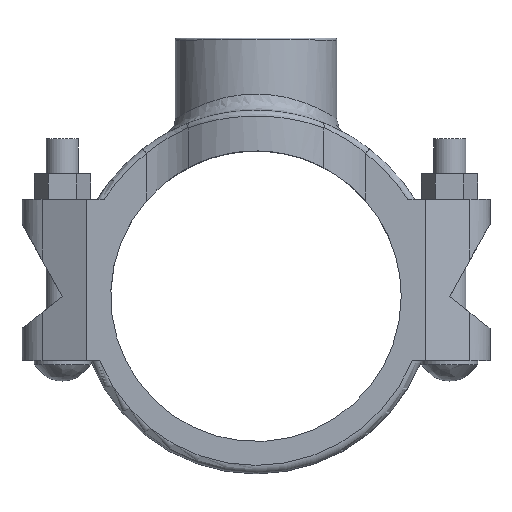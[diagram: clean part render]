
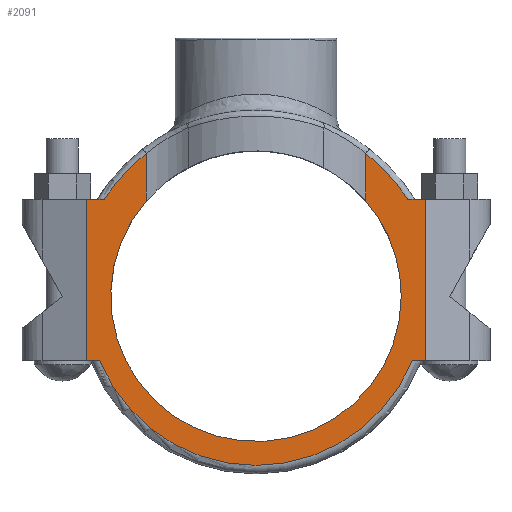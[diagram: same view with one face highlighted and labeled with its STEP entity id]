
A CAD part, top view. The second image highlights one B-rep face of the part: STEP entity #2091.
In plain terms, the highlighted planar face has unit normal (0, 0, 1).
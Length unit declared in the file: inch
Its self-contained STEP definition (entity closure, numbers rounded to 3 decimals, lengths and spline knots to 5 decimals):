
#125=CIRCLE('',#2179,2.79);
#129=CIRCLE('',#2184,2.79);
#159=CIRCLE('',#2259,2.25);
#160=CIRCLE('',#2260,2.25);
#165=CIRCLE('',#2278,2.62);
#339=FACE_OUTER_BOUND('',#451,.T.);
#451=EDGE_LOOP('',(#1692,#1693,#1694,#1695,#1696,#1697,#1698,#1699,#1700,
#1701,#1702,#1703,#1704));
#476=LINE('',#2920,#628);
#581=LINE('',#4032,#733);
#591=LINE('',#4054,#743);
#603=LINE('',#4234,#755);
#604=LINE('',#4235,#756);
#605=LINE('',#4236,#757);
#606=LINE('',#4237,#758);
#607=LINE('',#4238,#759);
#628=VECTOR('',#2345,0.3937);
#733=VECTOR('',#2730,0.3937);
#743=VECTOR('',#2752,0.3937);
#755=VECTOR('',#2812,0.3937);
#756=VECTOR('',#2813,0.3937);
#757=VECTOR('',#2814,0.3937);
#758=VECTOR('',#2815,0.3937);
#759=VECTOR('',#2816,0.3937);
#780=VERTEX_POINT('',#2917);
#781=VERTEX_POINT('',#2919);
#848=VERTEX_POINT('',#3319);
#849=VERTEX_POINT('',#3321);
#852=VERTEX_POINT('',#3440);
#853=VERTEX_POINT('',#3448);
#922=VERTEX_POINT('',#3959);
#923=VERTEX_POINT('',#3961);
#926=VERTEX_POINT('',#3995);
#937=VERTEX_POINT('',#4051);
#938=VERTEX_POINT('',#4053);
#940=VERTEX_POINT('',#4058);
#942=VERTEX_POINT('',#4071);
#976=EDGE_CURVE('',#780,#781,#476,.T.);
#1062=EDGE_CURVE('',#848,#849,#125,.T.);
#1071=EDGE_CURVE('',#853,#852,#129,.T.);
#1173=EDGE_CURVE('',#923,#922,#159,.T.);
#1177=EDGE_CURVE('',#922,#926,#160,.T.);
#1190=EDGE_CURVE('',#923,#848,#581,.T.);
#1201=EDGE_CURVE('',#938,#937,#591,.T.);
#1206=EDGE_CURVE('',#940,#942,#165,.T.);
#1237=EDGE_CURVE('',#853,#781,#603,.T.);
#1238=EDGE_CURVE('',#940,#780,#604,.T.);
#1239=EDGE_CURVE('',#938,#942,#605,.T.);
#1240=EDGE_CURVE('',#937,#849,#606,.T.);
#1241=EDGE_CURVE('',#926,#852,#607,.T.);
#1692=ORIENTED_EDGE('',*,*,#1237,.T.);
#1693=ORIENTED_EDGE('',*,*,#976,.F.);
#1694=ORIENTED_EDGE('',*,*,#1238,.F.);
#1695=ORIENTED_EDGE('',*,*,#1206,.T.);
#1696=ORIENTED_EDGE('',*,*,#1239,.F.);
#1697=ORIENTED_EDGE('',*,*,#1201,.T.);
#1698=ORIENTED_EDGE('',*,*,#1240,.T.);
#1699=ORIENTED_EDGE('',*,*,#1062,.F.);
#1700=ORIENTED_EDGE('',*,*,#1190,.F.);
#1701=ORIENTED_EDGE('',*,*,#1173,.T.);
#1702=ORIENTED_EDGE('',*,*,#1177,.T.);
#1703=ORIENTED_EDGE('',*,*,#1241,.T.);
#1704=ORIENTED_EDGE('',*,*,#1071,.F.);
#1893=PLANE('',#2299);
#2091=ADVANCED_FACE('',(#339),#1893,.T.);
#2179=AXIS2_PLACEMENT_3D('',#3322,#2485,#2486);
#2184=AXIS2_PLACEMENT_3D('',#3459,#2495,#2496);
#2259=AXIS2_PLACEMENT_3D('',#3962,#2700,#2701);
#2260=AXIS2_PLACEMENT_3D('',#4008,#2702,#2703);
#2278=AXIS2_PLACEMENT_3D('',#4082,#2758,#2759);
#2299=AXIS2_PLACEMENT_3D('',#4233,#2810,#2811);
#2345=DIRECTION('',(0.,1.,0.));
#2485=DIRECTION('center_axis',(0.,0.,-1.));
#2486=DIRECTION('ref_axis',(0.736,0.677,0.));
#2495=DIRECTION('center_axis',(0.,0.,-1.));
#2496=DIRECTION('ref_axis',(-0.736,0.677,0.));
#2700=DIRECTION('center_axis',(0.,0.,-1.));
#2701=DIRECTION('ref_axis',(-1.,0.,0.));
#2702=DIRECTION('center_axis',(0.,0.,-1.));
#2703=DIRECTION('ref_axis',(-1.,0.,0.));
#2730=DIRECTION('',(0.,1.,0.));
#2752=DIRECTION('',(0.,1.,0.));
#2758=DIRECTION('center_axis',(0.,0.,1.));
#2759=DIRECTION('ref_axis',(-1.,0.,0.));
#2810=DIRECTION('center_axis',(0.,0.,1.));
#2811=DIRECTION('ref_axis',(1.,0.,0.));
#2812=DIRECTION('',(-1.,0.,0.));
#2813=DIRECTION('',(-1.,0.,0.));
#2814=DIRECTION('',(-1.,0.,0.));
#2815=DIRECTION('',(-1.,0.,0.));
#2816=DIRECTION('',(0.,1.,0.));
#2917=CARTESIAN_POINT('',(-2.625,-1.,1.));
#2919=CARTESIAN_POINT('',(-2.625,1.5,1.));
#2920=CARTESIAN_POINT('',(-2.625,0.,1.));
#3319=CARTESIAN_POINT('',(1.70018,2.21212,1.));
#3321=CARTESIAN_POINT('',(2.35247,1.5,1.));
#3322=CARTESIAN_POINT('Origin',(0.,0.,1.));
#3440=CARTESIAN_POINT('',(-1.70018,2.21212,1.));
#3448=CARTESIAN_POINT('',(-2.35247,1.5,1.));
#3459=CARTESIAN_POINT('Origin',(0.,0.,1.));
#3959=CARTESIAN_POINT('',(2.25,0.,1.));
#3961=CARTESIAN_POINT('',(1.70018,1.47373,1.));
#3962=CARTESIAN_POINT('Origin',(0.,0.,1.));
#3995=CARTESIAN_POINT('',(-1.70018,1.47373,1.));
#4008=CARTESIAN_POINT('Origin',(0.,0.,1.));
#4032=CARTESIAN_POINT('',(1.70018,0.,1.));
#4051=CARTESIAN_POINT('',(2.625,1.5,1.));
#4053=CARTESIAN_POINT('',(2.625,-1.,1.));
#4054=CARTESIAN_POINT('',(2.625,0.,1.));
#4058=CARTESIAN_POINT('',(-2.42165,-1.,1.));
#4071=CARTESIAN_POINT('',(2.42165,-1.,1.));
#4082=CARTESIAN_POINT('Origin',(0.,0.,
1.));
#4233=CARTESIAN_POINT('Origin',(1.70018,0.,1.));
#4234=CARTESIAN_POINT('',(-3.125,1.5,1.));
#4235=CARTESIAN_POINT('',(-2.625,-1.,1.));
#4236=CARTESIAN_POINT('',(-2.625,-1.,1.));
#4237=CARTESIAN_POINT('',(2.07936,1.5,1.));
#4238=CARTESIAN_POINT('',(-1.70018,0.,1.));
